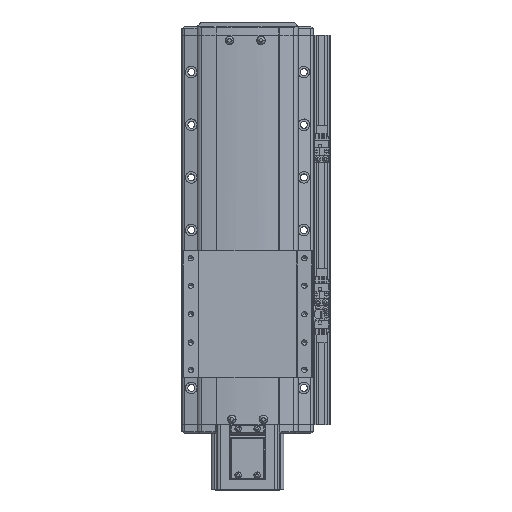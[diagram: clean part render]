
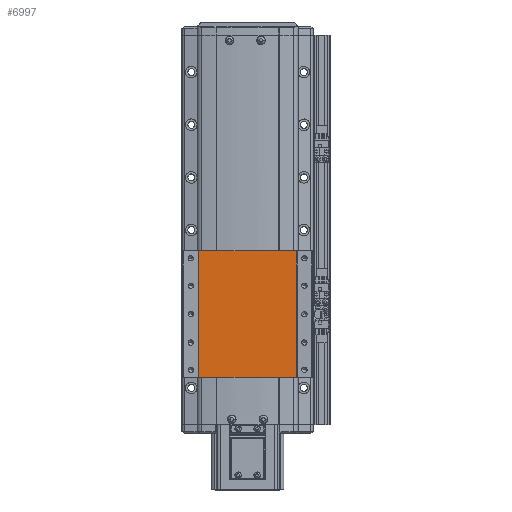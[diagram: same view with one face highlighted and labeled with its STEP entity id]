
A CAD part, top view. The second image highlights one B-rep face of the part: STEP entity #6997.
In plain terms, the highlighted planar face has unit normal (0, 0, 1).
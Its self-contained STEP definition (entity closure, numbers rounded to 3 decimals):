
#6997=ADVANCED_FACE('',(#16078),#16079,.F.);
#16078=FACE_OUTER_BOUND('',#28423,.T.);
#16079=PLANE('',#28424);
#28423=EDGE_LOOP('',(#50062,#50063,#50064,#50065));
#28424=AXIS2_PLACEMENT_3D('',#50066,#50067,#50068);
#50062=ORIENTED_EDGE('',*,*,#76583,.F.);
#50063=ORIENTED_EDGE('',*,*,#76584,.F.);
#50064=ORIENTED_EDGE('',*,*,#70451,.F.);
#50065=ORIENTED_EDGE('',*,*,#76585,.T.);
#50066=CARTESIAN_POINT('',(-300.,-7.778,36.5));
#50067=DIRECTION('',(0.,0.,-1.0));
#50068=DIRECTION('',(-1.0,0.,0.));
#70451=EDGE_CURVE('',#84307,#84309,#84310,.T.);
#76583=EDGE_CURVE('',#94082,#94083,#94084,.T.);
#76584=EDGE_CURVE('',#84309,#94082,#94085,.T.);
#76585=EDGE_CURVE('',#84307,#94083,#94086,.T.);
#84307=VERTEX_POINT('',#103834);
#84309=VERTEX_POINT('',#103836);
#84310=LINE('',#103837,#103838);
#94082=VERTEX_POINT('',#118294);
#94083=VERTEX_POINT('',#118295);
#94084=LINE('',#118296,#118297);
#94085=LINE('',#118298,#118299);
#94086=LINE('',#118300,#118301);
#103834=CARTESIAN_POINT('',(-253.624,-7.778,36.5));
#103836=CARTESIAN_POINT('',(-346.376,-7.778,36.5));
#103837=CARTESIAN_POINT('',(-253.624,-7.778,36.5));
#103838=VECTOR('',#128830,10.0);
#118294=CARTESIAN_POINT('',(-346.376,112.222,36.5));
#118295=CARTESIAN_POINT('',(-253.624,112.222,36.5));
#118296=CARTESIAN_POINT('',(-253.624,112.222,36.5));
#118297=VECTOR('',#137001,10.0);
#118298=CARTESIAN_POINT('',(-346.376,-7.778,36.5));
#118299=VECTOR('',#137002,10.0);
#118300=CARTESIAN_POINT('',(-253.624,-7.778,36.5));
#118301=VECTOR('',#137003,10.0);
#128830=DIRECTION('',(-1.0,0.,0.));
#137001=DIRECTION('',(1.0,0.,0.));
#137002=DIRECTION('',(0.,1.0,0.));
#137003=DIRECTION('',(0.,1.0,0.));
